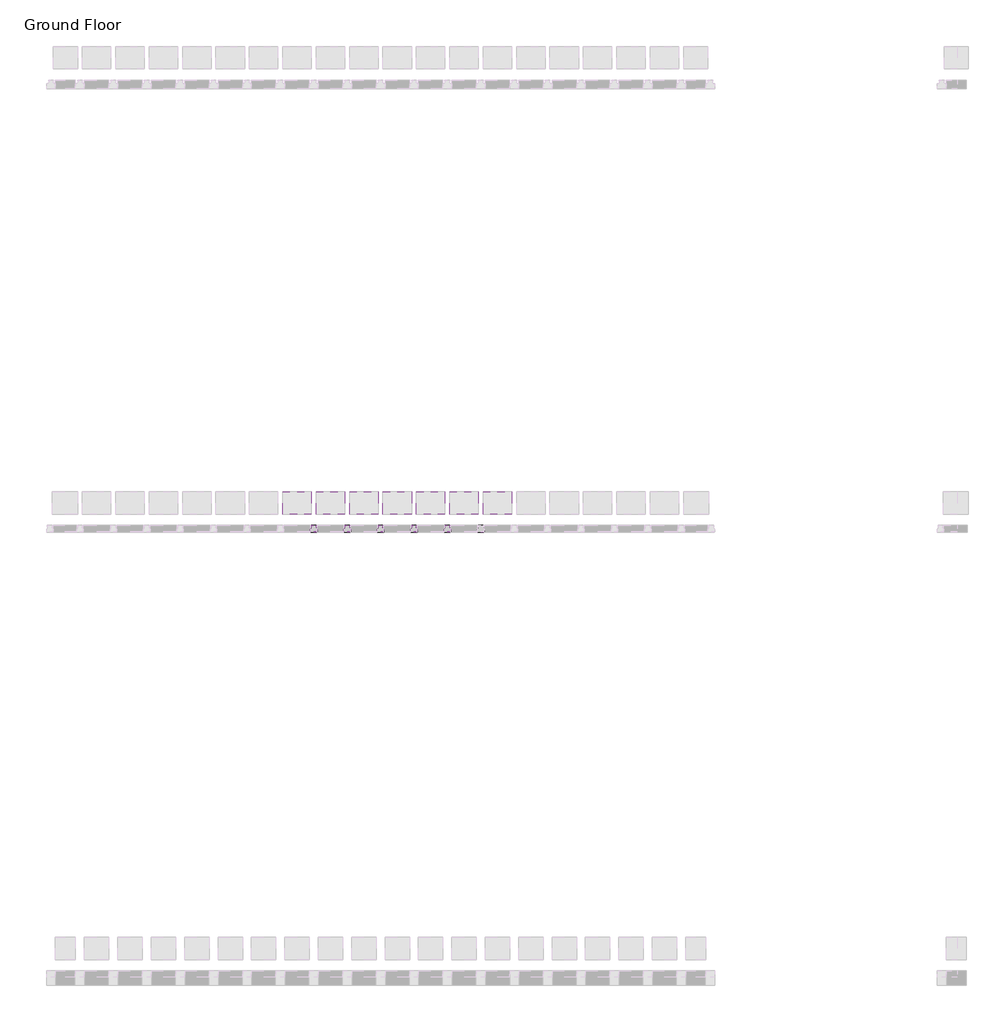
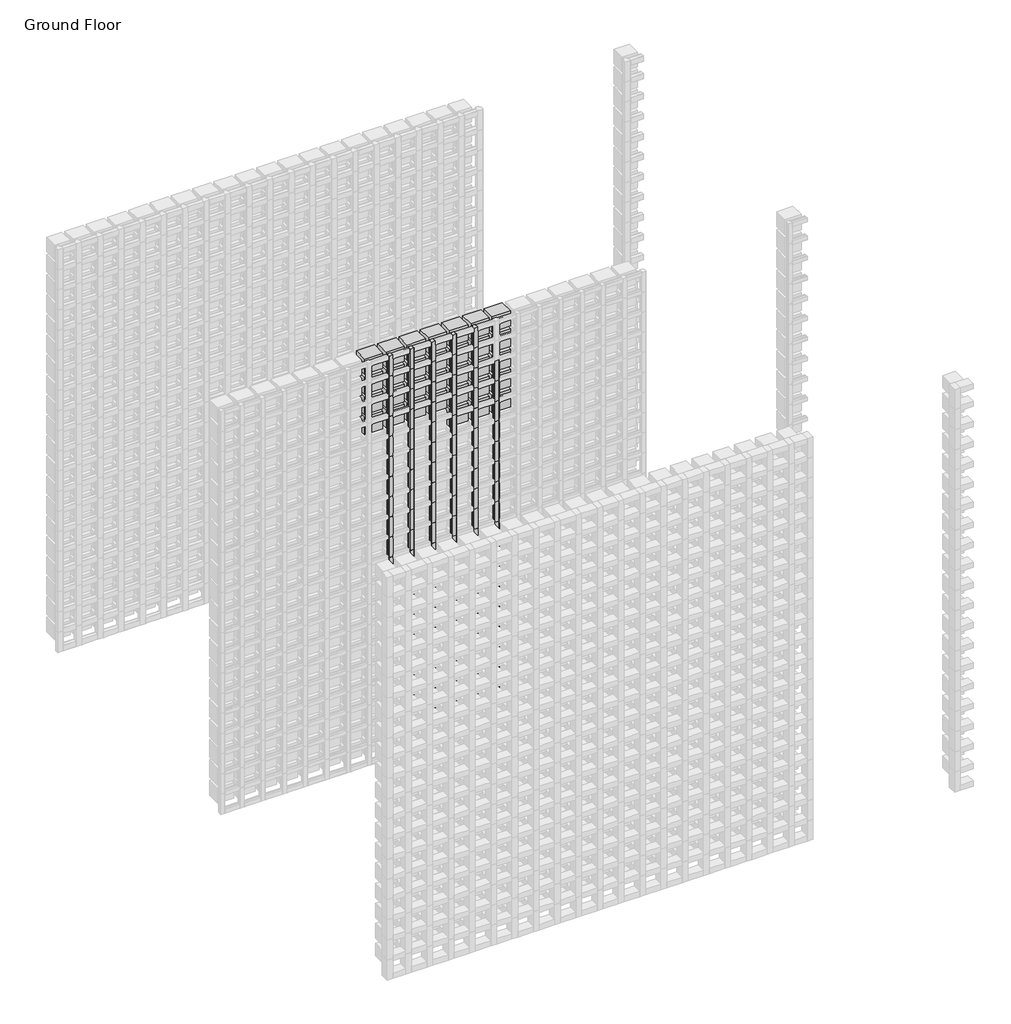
# One storey, part 107 of 350: 112 members, 31 plates.
"""IFC4 building model written with IfcOpenShell, lengths in millimetres."""

from ifc_helpers import new_model, si_unit, origin, place, context, project, spatial, transform, mapped, element, save
from components import rectangular_mullion_f1976eb1, empty_system_panel_empty_5a3607ba, empty_system_panel_empty_babc703c

model = new_model("IFC4")

# Units and contexts
model_context = context("Model", 3, world=origin())
ifc_project = project(units=[si_unit("LENGTHUNIT", "METRE", prefix="MILLI")], contexts=[model_context])

# Site, building, storey
site = spatial("IfcSite", under=ifc_project)
building = spatial("IfcBuilding", under=site)
storey = spatial("IfcBuildingStorey", under=building, Name="Ground Floor", Elevation=0.0)

# Members
placement = place(None, origin())
rectangular_mullion_shape = rectangular_mullion_f1976eb1(model_context)
element("IfcMember", 1, ObjectType="Rectangular Mullion : Batten_Timber_Modinex_Austratus_Grid_Fin_30x30_Blackbutt", at=placement, inside=storey, context=model_context, shape_type="MappedRepresentation", body=[
    mapped(rectangular_mullion_shape, transform((7116.4361642, 42968.2978302, 150.0), x_axis=(1.0, 0.0, 0.0), y_axis=(0.0, -1.0, 0.0), z_axis=(0.0, 0.0, -1.0))),
])
element("IfcMember", 2, ObjectType="Rectangular Mullion : Batten_Timber_Modinex_Austratus_Grid_Fin_30x30_Blackbutt", at=placement, inside=storey, context=model_context, shape_type="MappedRepresentation", body=[
    mapped(rectangular_mullion_shape, transform((7116.4361642, 42968.2978302, 300.0), x_axis=(1.0, 0.0, 0.0), y_axis=(0.0, -1.0, 0.0), z_axis=(0.0, 0.0, -1.0))),
])
element("IfcMember", 3, ObjectType="Rectangular Mullion : Batten_Timber_Modinex_Austratus_Grid_Fin_30x30_Blackbutt", at=placement, inside=storey, context=model_context, shape_type="MappedRepresentation", body=[
    mapped(rectangular_mullion_shape, transform((7116.4361642, 42968.2978302, 450.0), x_axis=(1.0, 0.0, 0.0), y_axis=(0.0, -1.0, 0.0), z_axis=(0.0, 0.0, -1.0))),
])
element("IfcMember", 4, ObjectType="Rectangular Mullion : Batten_Timber_Modinex_Austratus_Grid_Fin_30x30_Blackbutt", at=placement, inside=storey, context=model_context, shape_type="MappedRepresentation", body=[
    mapped(rectangular_mullion_shape, transform((7116.4361642, 42968.2978302, 600.0), x_axis=(1.0, 0.0, 0.0), y_axis=(0.0, -1.0, 0.0), z_axis=(0.0, 0.0, -1.0))),
])
element("IfcMember", 5, ObjectType="Rectangular Mullion : Batten_Timber_Modinex_Austratus_Grid_Fin_30x30_Blackbutt", at=placement, inside=storey, context=model_context, shape_type="MappedRepresentation", body=[
    mapped(rectangular_mullion_shape, transform((7116.4361642, 42968.2978302, 750.0), x_axis=(1.0, 0.0, 0.0), y_axis=(0.0, -1.0, 0.0), z_axis=(0.0, 0.0, -1.0))),
])
element("IfcMember", 6, ObjectType="Rectangular Mullion : Batten_Timber_Modinex_Austratus_Grid_Fin_30x30_Blackbutt", at=placement, inside=storey, context=model_context, shape_type="MappedRepresentation", body=[
    mapped(rectangular_mullion_shape, transform((7116.4361642, 42968.2978302, 900.0), x_axis=(1.0, 0.0, 0.0), y_axis=(0.0, -1.0, 0.0), z_axis=(0.0, 0.0, -1.0))),
])
element("IfcMember", 7, ObjectType="Rectangular Mullion : Batten_Timber_Modinex_Austratus_Grid_Fin_30x30_Blackbutt", at=placement, inside=storey, context=model_context, shape_type="MappedRepresentation", body=[
    mapped(rectangular_mullion_shape, transform((7116.4361642, 42968.2978302, 1050.0), x_axis=(1.0, 0.0, 0.0), y_axis=(0.0, -1.0, 0.0), z_axis=(0.0, 0.0, -1.0))),
])
element("IfcMember", 8, ObjectType="Rectangular Mullion : Batten_Timber_Modinex_Austratus_Grid_Fin_30x30_Blackbutt", at=placement, inside=storey, context=model_context, shape_type="MappedRepresentation", body=[
    mapped(rectangular_mullion_shape, transform((7116.4361642, 42968.2978302, 1200.0), x_axis=(1.0, 0.0, 0.0), y_axis=(0.0, -1.0, 0.0), z_axis=(0.0, 0.0, -1.0))),
])
element("IfcMember", 9, ObjectType="Rectangular Mullion : Batten_Timber_Modinex_Austratus_Grid_Fin_30x30_Blackbutt", at=placement, inside=storey, context=model_context, shape_type="MappedRepresentation", body=[
    mapped(rectangular_mullion_shape, transform((7116.4361642, 42968.2978302, 1350.0), x_axis=(1.0, 0.0, 0.0), y_axis=(0.0, -1.0, 0.0), z_axis=(0.0, 0.0, -1.0))),
])
element("IfcMember", 10, ObjectType="Rectangular Mullion : Batten_Timber_Modinex_Austratus_Grid_Fin_30x30_Blackbutt", at=placement, inside=storey, context=model_context, shape_type="MappedRepresentation", body=[
    mapped(rectangular_mullion_shape, transform((7116.4361642, 42968.2978302, 1500.0), x_axis=(1.0, 0.0, 0.0), y_axis=(0.0, -1.0, 0.0), z_axis=(0.0, 0.0, -1.0))),
])
element("IfcMember", 11, ObjectType="Rectangular Mullion : Batten_Timber_Modinex_Austratus_Grid_Fin_30x30_Blackbutt", at=placement, inside=storey, context=model_context, shape_type="MappedRepresentation", body=[
    mapped(rectangular_mullion_shape, transform((7116.4361642, 42968.2978302, 1650.0), x_axis=(1.0, 0.0, 0.0), y_axis=(0.0, -1.0, 0.0), z_axis=(0.0, 0.0, -1.0))),
])
element("IfcMember", 12, ObjectType="Rectangular Mullion : Batten_Timber_Modinex_Austratus_Grid_Fin_30x30_Blackbutt", at=placement, inside=storey, context=model_context, shape_type="MappedRepresentation", body=[
    mapped(rectangular_mullion_shape, transform((7116.4361642, 42968.2978302, 1800.0), x_axis=(1.0, 0.0, 0.0), y_axis=(0.0, -1.0, 0.0), z_axis=(0.0, 0.0, -1.0))),
])
element("IfcMember", 13, ObjectType="Rectangular Mullion : Batten_Timber_Modinex_Austratus_Grid_Fin_30x30_Blackbutt", at=placement, inside=storey, context=model_context, shape_type="MappedRepresentation", body=[
    mapped(rectangular_mullion_shape, transform((7116.4361642, 42968.2978302, 1950.0), x_axis=(1.0, 0.0, 0.0), y_axis=(0.0, -1.0, 0.0), z_axis=(0.0, 0.0, -1.0))),
])
element("IfcMember", 14, ObjectType="Rectangular Mullion : Batten_Timber_Modinex_Austratus_Grid_Fin_30x30_Blackbutt", at=placement, inside=storey, context=model_context, shape_type="MappedRepresentation", body=[
    mapped(rectangular_mullion_shape, transform((7116.4361642, 42968.2978302, 2100.0), x_axis=(1.0, 0.0, 0.0), y_axis=(0.0, -1.0, 0.0), z_axis=(0.0, 0.0, -1.0))),
])
element("IfcMember", 15, ObjectType="Rectangular Mullion : Batten_Timber_Modinex_Austratus_Grid_Fin_30x30_Blackbutt", at=placement, inside=storey, context=model_context, shape_type="MappedRepresentation", body=[
    mapped(rectangular_mullion_shape, transform((7116.4361642, 42968.2978302, 2250.0), x_axis=(1.0, 0.0, 0.0), y_axis=(0.0, -1.0, 0.0), z_axis=(0.0, 0.0, -1.0))),
])
element("IfcMember", 16, ObjectType="Rectangular Mullion : Batten_Timber_Modinex_Austratus_Grid_Fin_30x30_Blackbutt", at=placement, inside=storey, context=model_context, shape_type="MappedRepresentation", body=[
    mapped(rectangular_mullion_shape, transform((7116.4361642, 42968.2978302, 2400.0), x_axis=(1.0, 0.0, 0.0), y_axis=(0.0, -1.0, 0.0), z_axis=(0.0, 0.0, -1.0))),
])
element("IfcMember", 17, ObjectType="Rectangular Mullion : Batten_Timber_Modinex_Austratus_Grid_Fin_30x30_Blackbutt", at=placement, inside=storey, context=model_context, shape_type="MappedRepresentation", body=[
    mapped(rectangular_mullion_shape, transform((7116.4361642, 42968.2978302, 2550.0), x_axis=(1.0, 0.0, 0.0), y_axis=(0.0, -1.0, 0.0), z_axis=(0.0, 0.0, -1.0))),
])
element("IfcMember", 18, ObjectType="Rectangular Mullion : Batten_Timber_Modinex_Austratus_Grid_Fin_30x30_Blackbutt", at=placement, inside=storey, context=model_context, shape_type="MappedRepresentation", body=[
    mapped(rectangular_mullion_shape, transform((7116.4361642, 42968.2978302, 2700.0), x_axis=(1.0, 0.0, 0.0), y_axis=(0.0, -1.0, 0.0), z_axis=(0.0, 0.0, -1.0))),
])
element("IfcMember", 19, ObjectType="Rectangular Mullion : Batten_Timber_Modinex_Austratus_Grid_Fin_30x30_Blackbutt", at=placement, inside=storey, context=model_context, shape_type="MappedRepresentation", body=[
    mapped(rectangular_mullion_shape, transform((7266.4361642, 42968.2978302, 150.0), x_axis=(1.0, 0.0, 0.0), y_axis=(0.0, -1.0, 0.0), z_axis=(0.0, 0.0, -1.0))),
])
element("IfcMember", 20, ObjectType="Rectangular Mullion : Batten_Timber_Modinex_Austratus_Grid_Fin_30x30_Blackbutt", at=placement, inside=storey, context=model_context, shape_type="MappedRepresentation", body=[
    mapped(rectangular_mullion_shape, transform((7266.4361642, 42968.2978302, 300.0), x_axis=(1.0, 0.0, 0.0), y_axis=(0.0, -1.0, 0.0), z_axis=(0.0, 0.0, -1.0))),
])
element("IfcMember", 21, ObjectType="Rectangular Mullion : Batten_Timber_Modinex_Austratus_Grid_Fin_30x30_Blackbutt", at=placement, inside=storey, context=model_context, shape_type="MappedRepresentation", body=[
    mapped(rectangular_mullion_shape, transform((7266.4361642, 42968.2978302, 450.0), x_axis=(1.0, 0.0, 0.0), y_axis=(0.0, -1.0, 0.0), z_axis=(0.0, 0.0, -1.0))),
])
element("IfcMember", 22, ObjectType="Rectangular Mullion : Batten_Timber_Modinex_Austratus_Grid_Fin_30x30_Blackbutt", at=placement, inside=storey, context=model_context, shape_type="MappedRepresentation", body=[
    mapped(rectangular_mullion_shape, transform((7266.4361642, 42968.2978302, 600.0), x_axis=(1.0, 0.0, 0.0), y_axis=(0.0, -1.0, 0.0), z_axis=(0.0, 0.0, -1.0))),
])
element("IfcMember", 23, ObjectType="Rectangular Mullion : Batten_Timber_Modinex_Austratus_Grid_Fin_30x30_Blackbutt", at=placement, inside=storey, context=model_context, shape_type="MappedRepresentation", body=[
    mapped(rectangular_mullion_shape, transform((7266.4361642, 42968.2978302, 750.0), x_axis=(1.0, 0.0, 0.0), y_axis=(0.0, -1.0, 0.0), z_axis=(0.0, 0.0, -1.0))),
])
element("IfcMember", 24, ObjectType="Rectangular Mullion : Batten_Timber_Modinex_Austratus_Grid_Fin_30x30_Blackbutt", at=placement, inside=storey, context=model_context, shape_type="MappedRepresentation", body=[
    mapped(rectangular_mullion_shape, transform((7266.4361642, 42968.2978302, 900.0), x_axis=(1.0, 0.0, 0.0), y_axis=(0.0, -1.0, 0.0), z_axis=(0.0, 0.0, -1.0))),
])
element("IfcMember", 25, ObjectType="Rectangular Mullion : Batten_Timber_Modinex_Austratus_Grid_Fin_30x30_Blackbutt", at=placement, inside=storey, context=model_context, shape_type="MappedRepresentation", body=[
    mapped(rectangular_mullion_shape, transform((7266.4361642, 42968.2978302, 1050.0), x_axis=(1.0, 0.0, 0.0), y_axis=(0.0, -1.0, 0.0), z_axis=(0.0, 0.0, -1.0))),
])
element("IfcMember", 26, ObjectType="Rectangular Mullion : Batten_Timber_Modinex_Austratus_Grid_Fin_30x30_Blackbutt", at=placement, inside=storey, context=model_context, shape_type="MappedRepresentation", body=[
    mapped(rectangular_mullion_shape, transform((7266.4361642, 42968.2978302, 1200.0), x_axis=(1.0, 0.0, 0.0), y_axis=(0.0, -1.0, 0.0), z_axis=(0.0, 0.0, -1.0))),
])
element("IfcMember", 27, ObjectType="Rectangular Mullion : Batten_Timber_Modinex_Austratus_Grid_Fin_30x30_Blackbutt", at=placement, inside=storey, context=model_context, shape_type="MappedRepresentation", body=[
    mapped(rectangular_mullion_shape, transform((7266.4361642, 42968.2978302, 1350.0), x_axis=(1.0, 0.0, 0.0), y_axis=(0.0, -1.0, 0.0), z_axis=(0.0, 0.0, -1.0))),
])
element("IfcMember", 28, ObjectType="Rectangular Mullion : Batten_Timber_Modinex_Austratus_Grid_Fin_30x30_Blackbutt", at=placement, inside=storey, context=model_context, shape_type="MappedRepresentation", body=[
    mapped(rectangular_mullion_shape, transform((7266.4361642, 42968.2978302, 1500.0), x_axis=(1.0, 0.0, 0.0), y_axis=(0.0, -1.0, 0.0), z_axis=(0.0, 0.0, -1.0))),
])
element("IfcMember", 29, ObjectType="Rectangular Mullion : Batten_Timber_Modinex_Austratus_Grid_Fin_30x30_Blackbutt", at=placement, inside=storey, context=model_context, shape_type="MappedRepresentation", body=[
    mapped(rectangular_mullion_shape, transform((7266.4361642, 42968.2978302, 1650.0), x_axis=(1.0, 0.0, 0.0), y_axis=(0.0, -1.0, 0.0), z_axis=(0.0, 0.0, -1.0))),
])
element("IfcMember", 30, ObjectType="Rectangular Mullion : Batten_Timber_Modinex_Austratus_Grid_Fin_30x30_Blackbutt", at=placement, inside=storey, context=model_context, shape_type="MappedRepresentation", body=[
    mapped(rectangular_mullion_shape, transform((7266.4361642, 42968.2978302, 1800.0), x_axis=(1.0, 0.0, 0.0), y_axis=(0.0, -1.0, 0.0), z_axis=(0.0, 0.0, -1.0))),
])
element("IfcMember", 31, ObjectType="Rectangular Mullion : Batten_Timber_Modinex_Austratus_Grid_Fin_30x30_Blackbutt", at=placement, inside=storey, context=model_context, shape_type="MappedRepresentation", body=[
    mapped(rectangular_mullion_shape, transform((7266.4361642, 42968.2978302, 1950.0), x_axis=(1.0, 0.0, 0.0), y_axis=(0.0, -1.0, 0.0), z_axis=(0.0, 0.0, -1.0))),
])
element("IfcMember", 32, ObjectType="Rectangular Mullion : Batten_Timber_Modinex_Austratus_Grid_Fin_30x30_Blackbutt", at=placement, inside=storey, context=model_context, shape_type="MappedRepresentation", body=[
    mapped(rectangular_mullion_shape, transform((7266.4361642, 42968.2978302, 2100.0), x_axis=(1.0, 0.0, 0.0), y_axis=(0.0, -1.0, 0.0), z_axis=(0.0, 0.0, -1.0))),
])
element("IfcMember", 33, ObjectType="Rectangular Mullion : Batten_Timber_Modinex_Austratus_Grid_Fin_30x30_Blackbutt", at=placement, inside=storey, context=model_context, shape_type="MappedRepresentation", body=[
    mapped(rectangular_mullion_shape, transform((7266.4361642, 42968.2978302, 2250.0), x_axis=(1.0, 0.0, 0.0), y_axis=(0.0, -1.0, 0.0), z_axis=(0.0, 0.0, -1.0))),
])
element("IfcMember", 34, ObjectType="Rectangular Mullion : Batten_Timber_Modinex_Austratus_Grid_Fin_30x30_Blackbutt", at=placement, inside=storey, context=model_context, shape_type="MappedRepresentation", body=[
    mapped(rectangular_mullion_shape, transform((7266.4361642, 42968.2978302, 2400.0), x_axis=(1.0, 0.0, 0.0), y_axis=(0.0, -1.0, 0.0), z_axis=(0.0, 0.0, -1.0))),
])
element("IfcMember", 35, ObjectType="Rectangular Mullion : Batten_Timber_Modinex_Austratus_Grid_Fin_30x30_Blackbutt", at=placement, inside=storey, context=model_context, shape_type="MappedRepresentation", body=[
    mapped(rectangular_mullion_shape, transform((7266.4361642, 42968.2978302, 2550.0), x_axis=(1.0, 0.0, 0.0), y_axis=(0.0, -1.0, 0.0), z_axis=(0.0, 0.0, -1.0))),
])
element("IfcMember", 36, ObjectType="Rectangular Mullion : Batten_Timber_Modinex_Austratus_Grid_Fin_30x30_Blackbutt", at=placement, inside=storey, context=model_context, shape_type="MappedRepresentation", body=[
    mapped(rectangular_mullion_shape, transform((7266.4361642, 42968.2978302, 2700.0), x_axis=(1.0, 0.0, 0.0), y_axis=(0.0, -1.0, 0.0), z_axis=(0.0, 0.0, -1.0))),
])
element("IfcMember", 37, ObjectType="Rectangular Mullion : Batten_Timber_Modinex_Austratus_Grid_Fin_30x30_Blackbutt", at=placement, inside=storey, context=model_context, shape_type="MappedRepresentation", body=[
    mapped(rectangular_mullion_shape, transform((7416.4361642, 42968.2978302, 150.0), x_axis=(1.0, 0.0, 0.0), y_axis=(0.0, -1.0, 0.0), z_axis=(0.0, 0.0, -1.0))),
])
element("IfcMember", 38, ObjectType="Rectangular Mullion : Batten_Timber_Modinex_Austratus_Grid_Fin_30x30_Blackbutt", at=placement, inside=storey, context=model_context, shape_type="MappedRepresentation", body=[
    mapped(rectangular_mullion_shape, transform((7416.4361642, 42968.2978302, 300.0), x_axis=(1.0, 0.0, 0.0), y_axis=(0.0, -1.0, 0.0), z_axis=(0.0, 0.0, -1.0))),
])
element("IfcMember", 39, ObjectType="Rectangular Mullion : Batten_Timber_Modinex_Austratus_Grid_Fin_30x30_Blackbutt", at=placement, inside=storey, context=model_context, shape_type="MappedRepresentation", body=[
    mapped(rectangular_mullion_shape, transform((7416.4361642, 42968.2978302, 450.0), x_axis=(1.0, 0.0, 0.0), y_axis=(0.0, -1.0, 0.0), z_axis=(0.0, 0.0, -1.0))),
])
element("IfcMember", 40, ObjectType="Rectangular Mullion : Batten_Timber_Modinex_Austratus_Grid_Fin_30x30_Blackbutt", at=placement, inside=storey, context=model_context, shape_type="MappedRepresentation", body=[
    mapped(rectangular_mullion_shape, transform((7416.4361642, 42968.2978302, 600.0), x_axis=(1.0, 0.0, 0.0), y_axis=(0.0, -1.0, 0.0), z_axis=(0.0, 0.0, -1.0))),
])
element("IfcMember", 41, ObjectType="Rectangular Mullion : Batten_Timber_Modinex_Austratus_Grid_Fin_30x30_Blackbutt", at=placement, inside=storey, context=model_context, shape_type="MappedRepresentation", body=[
    mapped(rectangular_mullion_shape, transform((7416.4361642, 42968.2978302, 750.0), x_axis=(1.0, 0.0, 0.0), y_axis=(0.0, -1.0, 0.0), z_axis=(0.0, 0.0, -1.0))),
])
element("IfcMember", 42, ObjectType="Rectangular Mullion : Batten_Timber_Modinex_Austratus_Grid_Fin_30x30_Blackbutt", at=placement, inside=storey, context=model_context, shape_type="MappedRepresentation", body=[
    mapped(rectangular_mullion_shape, transform((7416.4361642, 42968.2978302, 900.0), x_axis=(1.0, 0.0, 0.0), y_axis=(0.0, -1.0, 0.0), z_axis=(0.0, 0.0, -1.0))),
])
element("IfcMember", 43, ObjectType="Rectangular Mullion : Batten_Timber_Modinex_Austratus_Grid_Fin_30x30_Blackbutt", at=placement, inside=storey, context=model_context, shape_type="MappedRepresentation", body=[
    mapped(rectangular_mullion_shape, transform((7416.4361642, 42968.2978302, 1050.0), x_axis=(1.0, 0.0, 0.0), y_axis=(0.0, -1.0, 0.0), z_axis=(0.0, 0.0, -1.0))),
])
element("IfcMember", 44, ObjectType="Rectangular Mullion : Batten_Timber_Modinex_Austratus_Grid_Fin_30x30_Blackbutt", at=placement, inside=storey, context=model_context, shape_type="MappedRepresentation", body=[
    mapped(rectangular_mullion_shape, transform((7416.4361642, 42968.2978302, 1200.0), x_axis=(1.0, 0.0, 0.0), y_axis=(0.0, -1.0, 0.0), z_axis=(0.0, 0.0, -1.0))),
])
element("IfcMember", 45, ObjectType="Rectangular Mullion : Batten_Timber_Modinex_Austratus_Grid_Fin_30x30_Blackbutt", at=placement, inside=storey, context=model_context, shape_type="MappedRepresentation", body=[
    mapped(rectangular_mullion_shape, transform((7416.4361642, 42968.2978302, 1350.0), x_axis=(1.0, 0.0, 0.0), y_axis=(0.0, -1.0, 0.0), z_axis=(0.0, 0.0, -1.0))),
])
element("IfcMember", 46, ObjectType="Rectangular Mullion : Batten_Timber_Modinex_Austratus_Grid_Fin_30x30_Blackbutt", at=placement, inside=storey, context=model_context, shape_type="MappedRepresentation", body=[
    mapped(rectangular_mullion_shape, transform((7416.4361642, 42968.2978302, 1500.0), x_axis=(1.0, 0.0, 0.0), y_axis=(0.0, -1.0, 0.0), z_axis=(0.0, 0.0, -1.0))),
])
element("IfcMember", 47, ObjectType="Rectangular Mullion : Batten_Timber_Modinex_Austratus_Grid_Fin_30x30_Blackbutt", at=placement, inside=storey, context=model_context, shape_type="MappedRepresentation", body=[
    mapped(rectangular_mullion_shape, transform((7416.4361642, 42968.2978302, 1650.0), x_axis=(1.0, 0.0, 0.0), y_axis=(0.0, -1.0, 0.0), z_axis=(0.0, 0.0, -1.0))),
])
element("IfcMember", 48, ObjectType="Rectangular Mullion : Batten_Timber_Modinex_Austratus_Grid_Fin_30x30_Blackbutt", at=placement, inside=storey, context=model_context, shape_type="MappedRepresentation", body=[
    mapped(rectangular_mullion_shape, transform((7416.4361642, 42968.2978302, 1800.0), x_axis=(1.0, 0.0, 0.0), y_axis=(0.0, -1.0, 0.0), z_axis=(0.0, 0.0, -1.0))),
])
element("IfcMember", 49, ObjectType="Rectangular Mullion : Batten_Timber_Modinex_Austratus_Grid_Fin_30x30_Blackbutt", at=placement, inside=storey, context=model_context, shape_type="MappedRepresentation", body=[
    mapped(rectangular_mullion_shape, transform((7416.4361642, 42968.2978302, 1950.0), x_axis=(1.0, 0.0, 0.0), y_axis=(0.0, -1.0, 0.0), z_axis=(0.0, 0.0, -1.0))),
])
element("IfcMember", 50, ObjectType="Rectangular Mullion : Batten_Timber_Modinex_Austratus_Grid_Fin_30x30_Blackbutt", at=placement, inside=storey, context=model_context, shape_type="MappedRepresentation", body=[
    mapped(rectangular_mullion_shape, transform((7416.4361642, 42968.2978302, 2100.0), x_axis=(1.0, 0.0, 0.0), y_axis=(0.0, -1.0, 0.0), z_axis=(0.0, 0.0, -1.0))),
])
element("IfcMember", 51, ObjectType="Rectangular Mullion : Batten_Timber_Modinex_Austratus_Grid_Fin_30x30_Blackbutt", at=placement, inside=storey, context=model_context, shape_type="MappedRepresentation", body=[
    mapped(rectangular_mullion_shape, transform((7416.4361642, 42968.2978302, 2250.0), x_axis=(1.0, 0.0, 0.0), y_axis=(0.0, -1.0, 0.0), z_axis=(0.0, 0.0, -1.0))),
])
element("IfcMember", 52, ObjectType="Rectangular Mullion : Batten_Timber_Modinex_Austratus_Grid_Fin_30x30_Blackbutt", at=placement, inside=storey, context=model_context, shape_type="MappedRepresentation", body=[
    mapped(rectangular_mullion_shape, transform((7416.4361642, 42968.2978302, 2400.0), x_axis=(1.0, 0.0, 0.0), y_axis=(0.0, -1.0, 0.0), z_axis=(0.0, 0.0, -1.0))),
])
element("IfcMember", 53, ObjectType="Rectangular Mullion : Batten_Timber_Modinex_Austratus_Grid_Fin_30x30_Blackbutt", at=placement, inside=storey, context=model_context, shape_type="MappedRepresentation", body=[
    mapped(rectangular_mullion_shape, transform((7416.4361642, 42968.2978302, 2550.0), x_axis=(1.0, 0.0, 0.0), y_axis=(0.0, -1.0, 0.0), z_axis=(0.0, 0.0, -1.0))),
])
element("IfcMember", 54, ObjectType="Rectangular Mullion : Batten_Timber_Modinex_Austratus_Grid_Fin_30x30_Blackbutt", at=placement, inside=storey, context=model_context, shape_type="MappedRepresentation", body=[
    mapped(rectangular_mullion_shape, transform((7416.4361642, 42968.2978302, 2700.0), x_axis=(1.0, 0.0, 0.0), y_axis=(0.0, -1.0, 0.0), z_axis=(0.0, 0.0, -1.0))),
])
element("IfcMember", 55, ObjectType="Rectangular Mullion : Batten_Timber_Modinex_Austratus_Grid_Fin_30x30_Blackbutt", at=placement, inside=storey, context=model_context, shape_type="MappedRepresentation", body=[
    mapped(rectangular_mullion_shape, transform((7566.4361642, 42968.2978302, 150.0), x_axis=(1.0, 0.0, 0.0), y_axis=(0.0, -1.0, 0.0), z_axis=(0.0, 0.0, -1.0))),
])
element("IfcMember", 56, ObjectType="Rectangular Mullion : Batten_Timber_Modinex_Austratus_Grid_Fin_30x30_Blackbutt", at=placement, inside=storey, context=model_context, shape_type="MappedRepresentation", body=[
    mapped(rectangular_mullion_shape, transform((7566.4361642, 42968.2978302, 300.0), x_axis=(1.0, 0.0, 0.0), y_axis=(0.0, -1.0, 0.0), z_axis=(0.0, 0.0, -1.0))),
])
element("IfcMember", 57, ObjectType="Rectangular Mullion : Batten_Timber_Modinex_Austratus_Grid_Fin_30x30_Blackbutt", at=placement, inside=storey, context=model_context, shape_type="MappedRepresentation", body=[
    mapped(rectangular_mullion_shape, transform((7566.4361642, 42968.2978302, 450.0), x_axis=(1.0, 0.0, 0.0), y_axis=(0.0, -1.0, 0.0), z_axis=(0.0, 0.0, -1.0))),
])
element("IfcMember", 58, ObjectType="Rectangular Mullion : Batten_Timber_Modinex_Austratus_Grid_Fin_30x30_Blackbutt", at=placement, inside=storey, context=model_context, shape_type="MappedRepresentation", body=[
    mapped(rectangular_mullion_shape, transform((7566.4361642, 42968.2978302, 600.0), x_axis=(1.0, 0.0, 0.0), y_axis=(0.0, -1.0, 0.0), z_axis=(0.0, 0.0, -1.0))),
])
element("IfcMember", 59, ObjectType="Rectangular Mullion : Batten_Timber_Modinex_Austratus_Grid_Fin_30x30_Blackbutt", at=placement, inside=storey, context=model_context, shape_type="MappedRepresentation", body=[
    mapped(rectangular_mullion_shape, transform((7566.4361642, 42968.2978302, 750.0), x_axis=(1.0, 0.0, 0.0), y_axis=(0.0, -1.0, 0.0), z_axis=(0.0, 0.0, -1.0))),
])
element("IfcMember", 60, ObjectType="Rectangular Mullion : Batten_Timber_Modinex_Austratus_Grid_Fin_30x30_Blackbutt", at=placement, inside=storey, context=model_context, shape_type="MappedRepresentation", body=[
    mapped(rectangular_mullion_shape, transform((7566.4361642, 42968.2978302, 900.0), x_axis=(1.0, 0.0, 0.0), y_axis=(0.0, -1.0, 0.0), z_axis=(0.0, 0.0, -1.0))),
])
element("IfcMember", 61, ObjectType="Rectangular Mullion : Batten_Timber_Modinex_Austratus_Grid_Fin_30x30_Blackbutt", at=placement, inside=storey, context=model_context, shape_type="MappedRepresentation", body=[
    mapped(rectangular_mullion_shape, transform((7566.4361642, 42968.2978302, 1050.0), x_axis=(1.0, 0.0, 0.0), y_axis=(0.0, -1.0, 0.0), z_axis=(0.0, 0.0, -1.0))),
])
element("IfcMember", 62, ObjectType="Rectangular Mullion : Batten_Timber_Modinex_Austratus_Grid_Fin_30x30_Blackbutt", at=placement, inside=storey, context=model_context, shape_type="MappedRepresentation", body=[
    mapped(rectangular_mullion_shape, transform((7566.4361642, 42968.2978302, 1200.0), x_axis=(1.0, 0.0, 0.0), y_axis=(0.0, -1.0, 0.0), z_axis=(0.0, 0.0, -1.0))),
])
element("IfcMember", 63, ObjectType="Rectangular Mullion : Batten_Timber_Modinex_Austratus_Grid_Fin_30x30_Blackbutt", at=placement, inside=storey, context=model_context, shape_type="MappedRepresentation", body=[
    mapped(rectangular_mullion_shape, transform((7566.4361642, 42968.2978302, 1350.0), x_axis=(1.0, 0.0, 0.0), y_axis=(0.0, -1.0, 0.0), z_axis=(0.0, 0.0, -1.0))),
])
element("IfcMember", 64, ObjectType="Rectangular Mullion : Batten_Timber_Modinex_Austratus_Grid_Fin_30x30_Blackbutt", at=placement, inside=storey, context=model_context, shape_type="MappedRepresentation", body=[
    mapped(rectangular_mullion_shape, transform((7566.4361642, 42968.2978302, 1500.0), x_axis=(1.0, 0.0, 0.0), y_axis=(0.0, -1.0, 0.0), z_axis=(0.0, 0.0, -1.0))),
])
element("IfcMember", 65, ObjectType="Rectangular Mullion : Batten_Timber_Modinex_Austratus_Grid_Fin_30x30_Blackbutt", at=placement, inside=storey, context=model_context, shape_type="MappedRepresentation", body=[
    mapped(rectangular_mullion_shape, transform((7566.4361642, 42968.2978302, 1650.0), x_axis=(1.0, 0.0, 0.0), y_axis=(0.0, -1.0, 0.0), z_axis=(0.0, 0.0, -1.0))),
])
element("IfcMember", 66, ObjectType="Rectangular Mullion : Batten_Timber_Modinex_Austratus_Grid_Fin_30x30_Blackbutt", at=placement, inside=storey, context=model_context, shape_type="MappedRepresentation", body=[
    mapped(rectangular_mullion_shape, transform((7566.4361642, 42968.2978302, 1800.0), x_axis=(1.0, 0.0, 0.0), y_axis=(0.0, -1.0, 0.0), z_axis=(0.0, 0.0, -1.0))),
])
element("IfcMember", 67, ObjectType="Rectangular Mullion : Batten_Timber_Modinex_Austratus_Grid_Fin_30x30_Blackbutt", at=placement, inside=storey, context=model_context, shape_type="MappedRepresentation", body=[
    mapped(rectangular_mullion_shape, transform((7566.4361642, 42968.2978302, 1950.0), x_axis=(1.0, 0.0, 0.0), y_axis=(0.0, -1.0, 0.0), z_axis=(0.0, 0.0, -1.0))),
])
element("IfcMember", 68, ObjectType="Rectangular Mullion : Batten_Timber_Modinex_Austratus_Grid_Fin_30x30_Blackbutt", at=placement, inside=storey, context=model_context, shape_type="MappedRepresentation", body=[
    mapped(rectangular_mullion_shape, transform((7566.4361642, 42968.2978302, 2100.0), x_axis=(1.0, 0.0, 0.0), y_axis=(0.0, -1.0, 0.0), z_axis=(0.0, 0.0, -1.0))),
])
element("IfcMember", 69, ObjectType="Rectangular Mullion : Batten_Timber_Modinex_Austratus_Grid_Fin_30x30_Blackbutt", at=placement, inside=storey, context=model_context, shape_type="MappedRepresentation", body=[
    mapped(rectangular_mullion_shape, transform((7566.4361642, 42968.2978302, 2250.0), x_axis=(1.0, 0.0, 0.0), y_axis=(0.0, -1.0, 0.0), z_axis=(0.0, 0.0, -1.0))),
])
element("IfcMember", 70, ObjectType="Rectangular Mullion : Batten_Timber_Modinex_Austratus_Grid_Fin_30x30_Blackbutt", at=placement, inside=storey, context=model_context, shape_type="MappedRepresentation", body=[
    mapped(rectangular_mullion_shape, transform((7566.4361642, 42968.2978302, 2400.0), x_axis=(1.0, 0.0, 0.0), y_axis=(0.0, -1.0, 0.0), z_axis=(0.0, 0.0, -1.0))),
])
element("IfcMember", 71, ObjectType="Rectangular Mullion : Batten_Timber_Modinex_Austratus_Grid_Fin_30x30_Blackbutt", at=placement, inside=storey, context=model_context, shape_type="MappedRepresentation", body=[
    mapped(rectangular_mullion_shape, transform((7566.4361642, 42968.2978302, 2550.0), x_axis=(1.0, 0.0, 0.0), y_axis=(0.0, -1.0, 0.0), z_axis=(0.0, 0.0, -1.0))),
])
element("IfcMember", 72, ObjectType="Rectangular Mullion : Batten_Timber_Modinex_Austratus_Grid_Fin_30x30_Blackbutt", at=placement, inside=storey, context=model_context, shape_type="MappedRepresentation", body=[
    mapped(rectangular_mullion_shape, transform((7566.4361642, 42968.2978302, 2700.0), x_axis=(1.0, 0.0, 0.0), y_axis=(0.0, -1.0, 0.0), z_axis=(0.0, 0.0, -1.0))),
])
element("IfcMember", 73, ObjectType="Rectangular Mullion : Batten_Timber_Modinex_Austratus_Grid_Fin_30x30_Blackbutt", at=placement, inside=storey, context=model_context, shape_type="MappedRepresentation", body=[
    mapped(rectangular_mullion_shape, transform((7716.4361642, 42968.2978302, 150.0), x_axis=(1.0, 0.0, 0.0), y_axis=(0.0, -1.0, 0.0), z_axis=(0.0, 0.0, -1.0))),
])
element("IfcMember", 74, ObjectType="Rectangular Mullion : Batten_Timber_Modinex_Austratus_Grid_Fin_30x30_Blackbutt", at=placement, inside=storey, context=model_context, shape_type="MappedRepresentation", body=[
    mapped(rectangular_mullion_shape, transform((7716.4361642, 42968.2978302, 300.0), x_axis=(1.0, 0.0, 0.0), y_axis=(0.0, -1.0, 0.0), z_axis=(0.0, 0.0, -1.0))),
])
element("IfcMember", 75, ObjectType="Rectangular Mullion : Batten_Timber_Modinex_Austratus_Grid_Fin_30x30_Blackbutt", at=placement, inside=storey, context=model_context, shape_type="MappedRepresentation", body=[
    mapped(rectangular_mullion_shape, transform((7716.4361642, 42968.2978302, 450.0), x_axis=(1.0, 0.0, 0.0), y_axis=(0.0, -1.0, 0.0), z_axis=(0.0, 0.0, -1.0))),
])
element("IfcMember", 76, ObjectType="Rectangular Mullion : Batten_Timber_Modinex_Austratus_Grid_Fin_30x30_Blackbutt", at=placement, inside=storey, context=model_context, shape_type="MappedRepresentation", body=[
    mapped(rectangular_mullion_shape, transform((7716.4361642, 42968.2978302, 600.0), x_axis=(1.0, 0.0, 0.0), y_axis=(0.0, -1.0, 0.0), z_axis=(0.0, 0.0, -1.0))),
])
element("IfcMember", 77, ObjectType="Rectangular Mullion : Batten_Timber_Modinex_Austratus_Grid_Fin_30x30_Blackbutt", at=placement, inside=storey, context=model_context, shape_type="MappedRepresentation", body=[
    mapped(rectangular_mullion_shape, transform((7716.4361642, 42968.2978302, 750.0), x_axis=(1.0, 0.0, 0.0), y_axis=(0.0, -1.0, 0.0), z_axis=(0.0, 0.0, -1.0))),
])
element("IfcMember", 78, ObjectType="Rectangular Mullion : Batten_Timber_Modinex_Austratus_Grid_Fin_30x30_Blackbutt", at=placement, inside=storey, context=model_context, shape_type="MappedRepresentation", body=[
    mapped(rectangular_mullion_shape, transform((7716.4361642, 42968.2978302, 900.0), x_axis=(1.0, 0.0, 0.0), y_axis=(0.0, -1.0, 0.0), z_axis=(0.0, 0.0, -1.0))),
])
element("IfcMember", 79, ObjectType="Rectangular Mullion : Batten_Timber_Modinex_Austratus_Grid_Fin_30x30_Blackbutt", at=placement, inside=storey, context=model_context, shape_type="MappedRepresentation", body=[
    mapped(rectangular_mullion_shape, transform((7716.4361642, 42968.2978302, 1050.0), x_axis=(1.0, 0.0, 0.0), y_axis=(0.0, -1.0, 0.0), z_axis=(0.0, 0.0, -1.0))),
])
element("IfcMember", 80, ObjectType="Rectangular Mullion : Batten_Timber_Modinex_Austratus_Grid_Fin_30x30_Blackbutt", at=placement, inside=storey, context=model_context, shape_type="MappedRepresentation", body=[
    mapped(rectangular_mullion_shape, transform((7716.4361642, 42968.2978302, 1200.0), x_axis=(1.0, 0.0, 0.0), y_axis=(0.0, -1.0, 0.0), z_axis=(0.0, 0.0, -1.0))),
])
element("IfcMember", 81, ObjectType="Rectangular Mullion : Batten_Timber_Modinex_Austratus_Grid_Fin_30x30_Blackbutt", at=placement, inside=storey, context=model_context, shape_type="MappedRepresentation", body=[
    mapped(rectangular_mullion_shape, transform((7716.4361642, 42968.2978302, 1350.0), x_axis=(1.0, 0.0, 0.0), y_axis=(0.0, -1.0, 0.0), z_axis=(0.0, 0.0, -1.0))),
])
element("IfcMember", 82, ObjectType="Rectangular Mullion : Batten_Timber_Modinex_Austratus_Grid_Fin_30x30_Blackbutt", at=placement, inside=storey, context=model_context, shape_type="MappedRepresentation", body=[
    mapped(rectangular_mullion_shape, transform((7716.4361642, 42968.2978302, 1500.0), x_axis=(1.0, 0.0, 0.0), y_axis=(0.0, -1.0, 0.0), z_axis=(0.0, 0.0, -1.0))),
])
element("IfcMember", 83, ObjectType="Rectangular Mullion : Batten_Timber_Modinex_Austratus_Grid_Fin_30x30_Blackbutt", at=placement, inside=storey, context=model_context, shape_type="MappedRepresentation", body=[
    mapped(rectangular_mullion_shape, transform((7716.4361642, 42968.2978302, 1650.0), x_axis=(1.0, 0.0, 0.0), y_axis=(0.0, -1.0, 0.0), z_axis=(0.0, 0.0, -1.0))),
])
element("IfcMember", 84, ObjectType="Rectangular Mullion : Batten_Timber_Modinex_Austratus_Grid_Fin_30x30_Blackbutt", at=placement, inside=storey, context=model_context, shape_type="MappedRepresentation", body=[
    mapped(rectangular_mullion_shape, transform((7716.4361642, 42968.2978302, 1800.0), x_axis=(1.0, 0.0, 0.0), y_axis=(0.0, -1.0, 0.0), z_axis=(0.0, 0.0, -1.0))),
])
element("IfcMember", 85, ObjectType="Rectangular Mullion : Batten_Timber_Modinex_Austratus_Grid_Fin_30x30_Blackbutt", at=placement, inside=storey, context=model_context, shape_type="MappedRepresentation", body=[
    mapped(rectangular_mullion_shape, transform((7716.4361642, 42968.2978302, 1950.0), x_axis=(1.0, 0.0, 0.0), y_axis=(0.0, -1.0, 0.0), z_axis=(0.0, 0.0, -1.0))),
])
element("IfcMember", 86, ObjectType="Rectangular Mullion : Batten_Timber_Modinex_Austratus_Grid_Fin_30x30_Blackbutt", at=placement, inside=storey, context=model_context, shape_type="MappedRepresentation", body=[
    mapped(rectangular_mullion_shape, transform((7716.4361642, 42968.2978302, 2100.0), x_axis=(1.0, 0.0, 0.0), y_axis=(0.0, -1.0, 0.0), z_axis=(0.0, 0.0, -1.0))),
])
element("IfcMember", 87, ObjectType="Rectangular Mullion : Batten_Timber_Modinex_Austratus_Grid_Fin_30x30_Blackbutt", at=placement, inside=storey, context=model_context, shape_type="MappedRepresentation", body=[
    mapped(rectangular_mullion_shape, transform((7716.4361642, 42968.2978302, 2250.0), x_axis=(1.0, 0.0, 0.0), y_axis=(0.0, -1.0, 0.0), z_axis=(0.0, 0.0, -1.0))),
])
element("IfcMember", 88, ObjectType="Rectangular Mullion : Batten_Timber_Modinex_Austratus_Grid_Fin_30x30_Blackbutt", at=placement, inside=storey, context=model_context, shape_type="MappedRepresentation", body=[
    mapped(rectangular_mullion_shape, transform((7716.4361642, 42968.2978302, 2400.0), x_axis=(1.0, 0.0, 0.0), y_axis=(0.0, -1.0, 0.0), z_axis=(0.0, 0.0, -1.0))),
])
element("IfcMember", 89, ObjectType="Rectangular Mullion : Batten_Timber_Modinex_Austratus_Grid_Fin_30x30_Blackbutt", at=placement, inside=storey, context=model_context, shape_type="MappedRepresentation", body=[
    mapped(rectangular_mullion_shape, transform((7716.4361642, 42968.2978302, 2550.0), x_axis=(1.0, 0.0, 0.0), y_axis=(0.0, -1.0, 0.0), z_axis=(0.0, 0.0, -1.0))),
])
element("IfcMember", 90, ObjectType="Rectangular Mullion : Batten_Timber_Modinex_Austratus_Grid_Fin_30x30_Blackbutt", at=placement, inside=storey, context=model_context, shape_type="MappedRepresentation", body=[
    mapped(rectangular_mullion_shape, transform((7716.4361642, 42968.2978302, 2700.0), x_axis=(1.0, 0.0, 0.0), y_axis=(0.0, -1.0, 0.0), z_axis=(0.0, 0.0, -1.0))),
])
element("IfcMember", 91, ObjectType="Rectangular Mullion : Batten_Timber_Modinex_Austratus_Grid_Fin_30x30_Blackbutt", at=placement, inside=storey, context=model_context, shape_type="MappedRepresentation", body=[
    mapped(rectangular_mullion_shape, transform((7866.4361642, 42968.2978302, 150.0), x_axis=(1.0, 0.0, 0.0), y_axis=(0.0, -1.0, 0.0), z_axis=(0.0, 0.0, -1.0))),
])
element("IfcMember", 92, ObjectType="Rectangular Mullion : Batten_Timber_Modinex_Austratus_Grid_Fin_30x30_Blackbutt", at=placement, inside=storey, context=model_context, shape_type="MappedRepresentation", body=[
    mapped(rectangular_mullion_shape, transform((7866.4361642, 42968.2978302, 300.0), x_axis=(1.0, 0.0, 0.0), y_axis=(0.0, -1.0, 0.0), z_axis=(0.0, 0.0, -1.0))),
])
element("IfcMember", 93, ObjectType="Rectangular Mullion : Batten_Timber_Modinex_Austratus_Grid_Fin_30x30_Blackbutt", at=placement, inside=storey, context=model_context, shape_type="MappedRepresentation", body=[
    mapped(rectangular_mullion_shape, transform((7866.4361642, 42968.2978302, 450.0), x_axis=(1.0, 0.0, 0.0), y_axis=(0.0, -1.0, 0.0), z_axis=(0.0, 0.0, -1.0))),
])
element("IfcMember", 94, ObjectType="Rectangular Mullion : Batten_Timber_Modinex_Austratus_Grid_Fin_30x30_Blackbutt", at=placement, inside=storey, context=model_context, shape_type="MappedRepresentation", body=[
    mapped(rectangular_mullion_shape, transform((7866.4361642, 42968.2978302, 600.0), x_axis=(1.0, 0.0, 0.0), y_axis=(0.0, -1.0, 0.0), z_axis=(0.0, 0.0, -1.0))),
])
element("IfcMember", 95, ObjectType="Rectangular Mullion : Batten_Timber_Modinex_Austratus_Grid_Fin_30x30_Blackbutt", at=placement, inside=storey, context=model_context, shape_type="MappedRepresentation", body=[
    mapped(rectangular_mullion_shape, transform((7866.4361642, 42968.2978302, 750.0), x_axis=(1.0, 0.0, 0.0), y_axis=(0.0, -1.0, 0.0), z_axis=(0.0, 0.0, -1.0))),
])
element("IfcMember", 96, ObjectType="Rectangular Mullion : Batten_Timber_Modinex_Austratus_Grid_Fin_30x30_Blackbutt", at=placement, inside=storey, context=model_context, shape_type="MappedRepresentation", body=[
    mapped(rectangular_mullion_shape, transform((7866.4361642, 42968.2978302, 900.0), x_axis=(1.0, 0.0, 0.0), y_axis=(0.0, -1.0, 0.0), z_axis=(0.0, 0.0, -1.0))),
])
element("IfcMember", 97, ObjectType="Rectangular Mullion : Batten_Timber_Modinex_Austratus_Grid_Fin_30x30_Blackbutt", at=placement, inside=storey, context=model_context, shape_type="MappedRepresentation", body=[
    mapped(rectangular_mullion_shape, transform((7866.4361642, 42968.2978302, 1050.0), x_axis=(1.0, 0.0, 0.0), y_axis=(0.0, -1.0, 0.0), z_axis=(0.0, 0.0, -1.0))),
])
element("IfcMember", 98, ObjectType="Rectangular Mullion : Batten_Timber_Modinex_Austratus_Grid_Fin_30x30_Blackbutt", at=placement, inside=storey, context=model_context, shape_type="MappedRepresentation", body=[
    mapped(rectangular_mullion_shape, transform((7866.4361642, 42968.2978302, 1200.0), x_axis=(1.0, 0.0, 0.0), y_axis=(0.0, -1.0, 0.0), z_axis=(0.0, 0.0, -1.0))),
])
element("IfcMember", 99, ObjectType="Rectangular Mullion : Batten_Timber_Modinex_Austratus_Grid_Fin_30x30_Blackbutt", at=placement, inside=storey, context=model_context, shape_type="MappedRepresentation", body=[
    mapped(rectangular_mullion_shape, transform((7866.4361642, 42968.2978302, 1350.0), x_axis=(1.0, 0.0, 0.0), y_axis=(0.0, -1.0, 0.0), z_axis=(0.0, 0.0, -1.0))),
])
element("IfcMember", 100, ObjectType="Rectangular Mullion : Batten_Timber_Modinex_Austratus_Grid_Fin_30x30_Blackbutt", at=placement, inside=storey, context=model_context, shape_type="MappedRepresentation", body=[
    mapped(rectangular_mullion_shape, transform((7866.4361642, 42968.2978302, 1500.0), x_axis=(1.0, 0.0, 0.0), y_axis=(0.0, -1.0, 0.0), z_axis=(0.0, 0.0, -1.0))),
])
element("IfcMember", 101, ObjectType="Rectangular Mullion : Batten_Timber_Modinex_Austratus_Grid_Fin_30x30_Blackbutt", at=placement, inside=storey, context=model_context, shape_type="MappedRepresentation", body=[
    mapped(rectangular_mullion_shape, transform((7866.4361642, 42968.2978302, 1650.0), x_axis=(1.0, 0.0, 0.0), y_axis=(0.0, -1.0, 0.0), z_axis=(0.0, 0.0, -1.0))),
])
element("IfcMember", 102, ObjectType="Rectangular Mullion : Batten_Timber_Modinex_Austratus_Grid_Fin_30x30_Blackbutt", at=placement, inside=storey, context=model_context, shape_type="MappedRepresentation", body=[
    mapped(rectangular_mullion_shape, transform((7866.4361642, 42968.2978302, 1800.0), x_axis=(1.0, 0.0, 0.0), y_axis=(0.0, -1.0, 0.0), z_axis=(0.0, 0.0, -1.0))),
])
element("IfcMember", 103, ObjectType="Rectangular Mullion : Batten_Timber_Modinex_Austratus_Grid_Fin_30x30_Blackbutt", at=placement, inside=storey, context=model_context, shape_type="MappedRepresentation", body=[
    mapped(rectangular_mullion_shape, transform((7866.4361642, 42968.2978302, 1950.0), x_axis=(1.0, 0.0, 0.0), y_axis=(0.0, -1.0, 0.0), z_axis=(0.0, 0.0, -1.0))),
])
element("IfcMember", 104, ObjectType="Rectangular Mullion : Batten_Timber_Modinex_Austratus_Grid_Fin_30x30_Blackbutt", at=placement, inside=storey, context=model_context, shape_type="MappedRepresentation", body=[
    mapped(rectangular_mullion_shape, transform((7866.4361642, 42968.2978302, 2100.0), x_axis=(1.0, 0.0, 0.0), y_axis=(0.0, -1.0, 0.0), z_axis=(0.0, 0.0, -1.0))),
])
element("IfcMember", 105, ObjectType="Rectangular Mullion : Batten_Timber_Modinex_Austratus_Grid_Fin_30x30_Blackbutt", at=placement, inside=storey, context=model_context, shape_type="MappedRepresentation", body=[
    mapped(rectangular_mullion_shape, transform((7866.4361642, 42968.2978302, 2250.0), x_axis=(1.0, 0.0, 0.0), y_axis=(0.0, -1.0, 0.0), z_axis=(0.0, 0.0, -1.0))),
])
element("IfcMember", 106, ObjectType="Rectangular Mullion : Batten_Timber_Modinex_Austratus_Grid_Fin_30x30_Blackbutt", at=placement, inside=storey, context=model_context, shape_type="MappedRepresentation", body=[
    mapped(rectangular_mullion_shape, transform((7866.4361642, 42968.2978302, 2400.0), x_axis=(1.0, 0.0, 0.0), y_axis=(0.0, -1.0, 0.0), z_axis=(0.0, 0.0, -1.0))),
])
element("IfcMember", 107, ObjectType="Rectangular Mullion : Batten_Timber_Modinex_Austratus_Grid_Fin_30x30_Blackbutt", at=placement, inside=storey, context=model_context, shape_type="MappedRepresentation", body=[
    mapped(rectangular_mullion_shape, transform((7866.4361642, 42968.2978302, 2550.0), x_axis=(1.0, 0.0, 0.0), y_axis=(0.0, -1.0, 0.0), z_axis=(0.0, 0.0, -1.0))),
])
element("IfcMember", 108, ObjectType="Rectangular Mullion : Batten_Timber_Modinex_Austratus_Grid_Fin_30x30_Blackbutt", at=placement, inside=storey, context=model_context, shape_type="MappedRepresentation", body=[
    mapped(rectangular_mullion_shape, transform((7116.4361642, 42968.2978302, 2850.0), x_axis=(1.0, 0.0, 0.0), y_axis=(0.0, -1.0, 0.0), z_axis=(0.0, 0.0, -1.0))),
])
element("IfcMember", 109, ObjectType="Rectangular Mullion : Batten_Timber_Modinex_Austratus_Grid_Fin_30x30_Blackbutt", at=placement, inside=storey, context=model_context, shape_type="MappedRepresentation", body=[
    mapped(rectangular_mullion_shape, transform((7266.4361642, 42968.2978302, 2850.0), x_axis=(1.0, 0.0, 0.0), y_axis=(0.0, -1.0, 0.0), z_axis=(0.0, 0.0, -1.0))),
])
element("IfcMember", 110, ObjectType="Rectangular Mullion : Batten_Timber_Modinex_Austratus_Grid_Fin_30x30_Blackbutt", at=placement, inside=storey, context=model_context, shape_type="MappedRepresentation", body=[
    mapped(rectangular_mullion_shape, transform((7416.4361642, 42968.2978302, 2850.0), x_axis=(1.0, 0.0, 0.0), y_axis=(0.0, -1.0, 0.0), z_axis=(0.0, 0.0, -1.0))),
])
element("IfcMember", 111, ObjectType="Rectangular Mullion : Batten_Timber_Modinex_Austratus_Grid_Fin_30x30_Blackbutt", at=placement, inside=storey, context=model_context, shape_type="MappedRepresentation", body=[
    mapped(rectangular_mullion_shape, transform((7566.4361642, 42968.2978302, 2850.0), x_axis=(1.0, 0.0, 0.0), y_axis=(0.0, -1.0, 0.0), z_axis=(0.0, 0.0, -1.0))),
])
element("IfcMember", 112, ObjectType="Rectangular Mullion : Batten_Timber_Modinex_Austratus_Grid_Fin_30x30_Blackbutt", at=placement, inside=storey, context=model_context, shape_type="MappedRepresentation", body=[
    mapped(rectangular_mullion_shape, transform((7716.4361642, 42968.2978302, 2850.0), x_axis=(1.0, 0.0, 0.0), y_axis=(0.0, -1.0, 0.0), z_axis=(0.0, 0.0, -1.0))),
])

# Plates
empty_system_panel_empty_shape = empty_system_panel_empty_5a3607ba(model_context)
element("IfcPlate", 113, ObjectType="Empty System Panel : Empty", at=placement, inside=storey, context=model_context, shape_type="MappedRepresentation", body=[
    mapped(empty_system_panel_empty_shape, transform((7641.4361642, 42968.2978302, 2260.812195), x_axis=(1.0, 0.0, 0.0), y_axis=(0.0, 1.0, 0.0), z_axis=(0.0, 0.0, 1.0))),
])
element("IfcPlate", 114, ObjectType="Empty System Panel : Empty", at=placement, inside=storey, context=model_context, shape_type="MappedRepresentation", body=[
    mapped(empty_system_panel_empty_shape, transform((7791.4361642, 42968.2978302, 2260.812195), x_axis=(1.0, 0.0, 0.0), y_axis=(0.0, 1.0, 0.0), z_axis=(0.0, 0.0, 1.0))),
])
element("IfcPlate", 115, ObjectType="Empty System Panel : Empty", at=placement, inside=storey, context=model_context, shape_type="MappedRepresentation", body=[
    mapped(empty_system_panel_empty_shape, transform((7941.4361642, 42968.2978302, 2260.812195), x_axis=(1.0, 0.0, 0.0), y_axis=(0.0, 1.0, 0.0), z_axis=(0.0, 0.0, 1.0))),
])
element("IfcPlate", 116, ObjectType="Empty System Panel : Empty", at=placement, inside=storey, context=model_context, shape_type="MappedRepresentation", body=[
    mapped(empty_system_panel_empty_shape, transform((7041.4361642, 42968.2978302, 2410.812195), x_axis=(1.0, 0.0, 0.0), y_axis=(0.0, 1.0, 0.0), z_axis=(0.0, 0.0, 1.0))),
])
element("IfcPlate", 117, ObjectType="Empty System Panel : Empty", at=placement, inside=storey, context=model_context, shape_type="MappedRepresentation", body=[
    mapped(empty_system_panel_empty_shape, transform((7191.4361642, 42968.2978302, 2410.812195), x_axis=(1.0, 0.0, 0.0), y_axis=(0.0, 1.0, 0.0), z_axis=(0.0, 0.0, 1.0))),
])
element("IfcPlate", 118, ObjectType="Empty System Panel : Empty", at=placement, inside=storey, context=model_context, shape_type="MappedRepresentation", body=[
    mapped(empty_system_panel_empty_shape, transform((7341.4361642, 42968.2978302, 2410.812195), x_axis=(1.0, 0.0, 0.0), y_axis=(0.0, 1.0, 0.0), z_axis=(0.0, 0.0, 1.0))),
])
element("IfcPlate", 119, ObjectType="Empty System Panel : Empty", at=placement, inside=storey, context=model_context, shape_type="MappedRepresentation", body=[
    mapped(empty_system_panel_empty_shape, transform((7491.4361642, 42968.2978302, 2410.812195), x_axis=(1.0, 0.0, 0.0), y_axis=(0.0, 1.0, 0.0), z_axis=(0.0, 0.0, 1.0))),
])
element("IfcPlate", 120, ObjectType="Empty System Panel : Empty", at=placement, inside=storey, context=model_context, shape_type="MappedRepresentation", body=[
    mapped(empty_system_panel_empty_shape, transform((7641.4361642, 42968.2978302, 2410.812195), x_axis=(1.0, 0.0, 0.0), y_axis=(0.0, 1.0, 0.0), z_axis=(0.0, 0.0, 1.0))),
])
element("IfcPlate", 121, ObjectType="Empty System Panel : Empty", at=placement, inside=storey, context=model_context, shape_type="MappedRepresentation", body=[
    mapped(empty_system_panel_empty_shape, transform((7791.4361642, 42968.2978302, 2410.812195), x_axis=(1.0, 0.0, 0.0), y_axis=(0.0, 1.0, 0.0), z_axis=(0.0, 0.0, 1.0))),
])
element("IfcPlate", 122, ObjectType="Empty System Panel : Empty", at=placement, inside=storey, context=model_context, shape_type="MappedRepresentation", body=[
    mapped(empty_system_panel_empty_shape, transform((7941.4361642, 42968.2978302, 2410.812195), x_axis=(1.0, 0.0, 0.0), y_axis=(0.0, 1.0, 0.0), z_axis=(0.0, 0.0, 1.0))),
])
element("IfcPlate", 123, ObjectType="Empty System Panel : Empty", at=placement, inside=storey, context=model_context, shape_type="MappedRepresentation", body=[
    mapped(empty_system_panel_empty_shape, transform((7041.4361642, 42968.2978302, 2560.812195), x_axis=(1.0, 0.0, 0.0), y_axis=(0.0, 1.0, 0.0), z_axis=(0.0, 0.0, 1.0))),
])
element("IfcPlate", 124, ObjectType="Empty System Panel : Empty", at=placement, inside=storey, context=model_context, shape_type="MappedRepresentation", body=[
    mapped(empty_system_panel_empty_shape, transform((7191.4361642, 42968.2978302, 2560.812195), x_axis=(1.0, 0.0, 0.0), y_axis=(0.0, 1.0, 0.0), z_axis=(0.0, 0.0, 1.0))),
])
element("IfcPlate", 125, ObjectType="Empty System Panel : Empty", at=placement, inside=storey, context=model_context, shape_type="MappedRepresentation", body=[
    mapped(empty_system_panel_empty_shape, transform((7341.4361642, 42968.2978302, 2560.812195), x_axis=(1.0, 0.0, 0.0), y_axis=(0.0, 1.0, 0.0), z_axis=(0.0, 0.0, 1.0))),
])
element("IfcPlate", 126, ObjectType="Empty System Panel : Empty", at=placement, inside=storey, context=model_context, shape_type="MappedRepresentation", body=[
    mapped(empty_system_panel_empty_shape, transform((7491.4361642, 42968.2978302, 2560.812195), x_axis=(1.0, 0.0, 0.0), y_axis=(0.0, 1.0, 0.0), z_axis=(0.0, 0.0, 1.0))),
])
element("IfcPlate", 127, ObjectType="Empty System Panel : Empty", at=placement, inside=storey, context=model_context, shape_type="MappedRepresentation", body=[
    mapped(empty_system_panel_empty_shape, transform((7641.4361642, 42968.2978302, 2560.812195), x_axis=(1.0, 0.0, 0.0), y_axis=(0.0, 1.0, 0.0), z_axis=(0.0, 0.0, 1.0))),
])
element("IfcPlate", 128, ObjectType="Empty System Panel : Empty", at=placement, inside=storey, context=model_context, shape_type="MappedRepresentation", body=[
    mapped(empty_system_panel_empty_shape, transform((7791.4361642, 42968.2978302, 2560.812195), x_axis=(1.0, 0.0, 0.0), y_axis=(0.0, 1.0, 0.0), z_axis=(0.0, 0.0, 1.0))),
])
element("IfcPlate", 129, ObjectType="Empty System Panel : Empty", at=placement, inside=storey, context=model_context, shape_type="MappedRepresentation", body=[
    mapped(empty_system_panel_empty_shape, transform((7941.4361642, 42968.2978302, 2560.812195), x_axis=(1.0, 0.0, 0.0), y_axis=(0.0, 1.0, 0.0), z_axis=(0.0, 0.0, 1.0))),
])
element("IfcPlate", 130, ObjectType="Empty System Panel : Empty", at=placement, inside=storey, context=model_context, shape_type="MappedRepresentation", body=[
    mapped(empty_system_panel_empty_shape, transform((7041.4361642, 42968.2978302, 2710.812195), x_axis=(1.0, 0.0, 0.0), y_axis=(0.0, 1.0, 0.0), z_axis=(0.0, 0.0, 1.0))),
])
element("IfcPlate", 131, ObjectType="Empty System Panel : Empty", at=placement, inside=storey, context=model_context, shape_type="MappedRepresentation", body=[
    mapped(empty_system_panel_empty_shape, transform((7191.4361642, 42968.2978302, 2710.812195), x_axis=(1.0, 0.0, 0.0), y_axis=(0.0, 1.0, 0.0), z_axis=(0.0, 0.0, 1.0))),
])
element("IfcPlate", 132, ObjectType="Empty System Panel : Empty", at=placement, inside=storey, context=model_context, shape_type="MappedRepresentation", body=[
    mapped(empty_system_panel_empty_shape, transform((7341.4361642, 42968.2978302, 2710.812195), x_axis=(1.0, 0.0, 0.0), y_axis=(0.0, 1.0, 0.0), z_axis=(0.0, 0.0, 1.0))),
])
element("IfcPlate", 133, ObjectType="Empty System Panel : Empty", at=placement, inside=storey, context=model_context, shape_type="MappedRepresentation", body=[
    mapped(empty_system_panel_empty_shape, transform((7491.4361642, 42968.2978302, 2710.812195), x_axis=(1.0, 0.0, 0.0), y_axis=(0.0, 1.0, 0.0), z_axis=(0.0, 0.0, 1.0))),
])
element("IfcPlate", 134, ObjectType="Empty System Panel : Empty", at=placement, inside=storey, context=model_context, shape_type="MappedRepresentation", body=[
    mapped(empty_system_panel_empty_shape, transform((7641.4361642, 42968.2978302, 2710.812195), x_axis=(1.0, 0.0, 0.0), y_axis=(0.0, 1.0, 0.0), z_axis=(0.0, 0.0, 1.0))),
])
element("IfcPlate", 135, ObjectType="Empty System Panel : Empty", at=placement, inside=storey, context=model_context, shape_type="MappedRepresentation", body=[
    mapped(empty_system_panel_empty_shape, transform((7791.4361642, 42968.2978302, 2710.812195), x_axis=(1.0, 0.0, 0.0), y_axis=(0.0, 1.0, 0.0), z_axis=(0.0, 0.0, 1.0))),
])
element("IfcPlate", 136, ObjectType="Empty System Panel : Empty", at=placement, inside=storey, context=model_context, shape_type="MappedRepresentation", body=[
    mapped(empty_system_panel_empty_shape, transform((7941.4361642, 42968.2978302, 2710.812195), x_axis=(1.0, 0.0, 0.0), y_axis=(0.0, 1.0, 0.0), z_axis=(0.0, 0.0, 1.0))),
])
empty_system_panel_empty_2_shape = empty_system_panel_empty_babc703c(model_context)
element("IfcPlate", 137, ObjectType="Empty System Panel : Empty", at=placement, inside=storey, context=model_context, shape_type="MappedRepresentation", body=[
    mapped(empty_system_panel_empty_2_shape, transform((7041.4361642, 42968.2978302, 2860.812195), x_axis=(1.0, 0.0, 0.0), y_axis=(0.0, 1.0, 0.0), z_axis=(0.0, 0.0, 1.0))),
])
element("IfcPlate", 138, ObjectType="Empty System Panel : Empty", at=placement, inside=storey, context=model_context, shape_type="MappedRepresentation", body=[
    mapped(empty_system_panel_empty_2_shape, transform((7191.4361642, 42968.2978302, 2860.812195), x_axis=(1.0, 0.0, 0.0), y_axis=(0.0, 1.0, 0.0), z_axis=(0.0, 0.0, 1.0))),
])
element("IfcPlate", 139, ObjectType="Empty System Panel : Empty", at=placement, inside=storey, context=model_context, shape_type="MappedRepresentation", body=[
    mapped(empty_system_panel_empty_2_shape, transform((7341.4361642, 42968.2978302, 2860.812195), x_axis=(1.0, 0.0, 0.0), y_axis=(0.0, 1.0, 0.0), z_axis=(0.0, 0.0, 1.0))),
])
element("IfcPlate", 140, ObjectType="Empty System Panel : Empty", at=placement, inside=storey, context=model_context, shape_type="MappedRepresentation", body=[
    mapped(empty_system_panel_empty_2_shape, transform((7491.4361642, 42968.2978302, 2860.812195), x_axis=(1.0, 0.0, 0.0), y_axis=(0.0, 1.0, 0.0), z_axis=(0.0, 0.0, 1.0))),
])
element("IfcPlate", 141, ObjectType="Empty System Panel : Empty", at=placement, inside=storey, context=model_context, shape_type="MappedRepresentation", body=[
    mapped(empty_system_panel_empty_2_shape, transform((7641.4361642, 42968.2978302, 2860.812195), x_axis=(1.0, 0.0, 0.0), y_axis=(0.0, 1.0, 0.0), z_axis=(0.0, 0.0, 1.0))),
])
element("IfcPlate", 142, ObjectType="Empty System Panel : Empty", at=placement, inside=storey, context=model_context, shape_type="MappedRepresentation", body=[
    mapped(empty_system_panel_empty_2_shape, transform((7791.4361642, 42968.2978302, 2860.812195), x_axis=(1.0, 0.0, 0.0), y_axis=(0.0, 1.0, 0.0), z_axis=(0.0, 0.0, 1.0))),
])
element("IfcPlate", 143, ObjectType="Empty System Panel : Empty", at=placement, inside=storey, context=model_context, shape_type="MappedRepresentation", body=[
    mapped(empty_system_panel_empty_2_shape, transform((7941.4361642, 42968.2978302, 2860.812195), x_axis=(1.0, 0.0, 0.0), y_axis=(0.0, 1.0, 0.0), z_axis=(0.0, 0.0, 1.0))),
])

save(model, "model.ifc")
